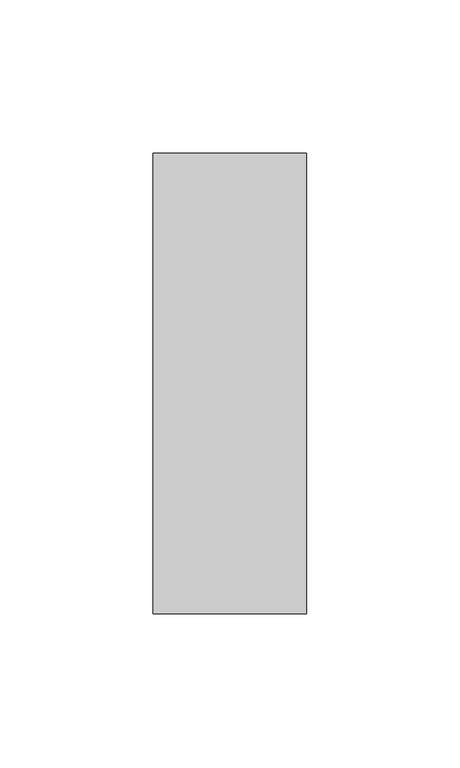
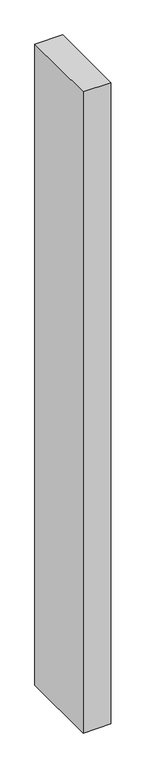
"""IFC4 building model written with IfcOpenShell, lengths in millimetres: member geometry, Прямоугольный импост : 50 x 150 мм."""

from ifc_helpers import new_model, si_unit, frame, origin, place, context, project, spatial, polyline, outline, extrude, source, transform, mapped, element, save


def member_bac0a0b3(model_context):
    return source(origin(), model_context, "Body", "SweptSolid", [
        extrude(outline(polyline([(0.0, 75.0), (0.0, -75.0), (-50.0, -75.0), (-50.0, 75.0), (0.0, 75.0)])), frame((0.0, 0.0, -1218.75), z_axis=(0.0, 0.0, 1.0), x_axis=(1.0, 0.0, 0.0)), (0.0, 0.0, 1.0), 1218.75),
    ])


if __name__ == "__main__":
    model = new_model("IFC4")
    model_context = context("Model", 3, world=origin())
    ifc_project = project(units=[si_unit("LENGTHUNIT", "METRE", prefix="MILLI")], contexts=[model_context])
    site = spatial("IfcSite", under=ifc_project)
    building = spatial("IfcBuilding", under=site)
    placement = place(None, origin())
    member_shape = member_bac0a0b3(model_context)
    element("IfcMember", 1, ObjectType="Прямоугольный импост : 50 x 150 мм", at=placement, inside=building, context=model_context, shape_type="MappedRepresentation", body=[
        mapped(member_shape, transform((0.0, 0.0, 0.0), x_axis=(1.0, 0.0, 0.0), y_axis=(0.0, 1.0, 0.0), z_axis=(0.0, 0.0, 1.0))),
    ])
    save(model, "model.ifc")
